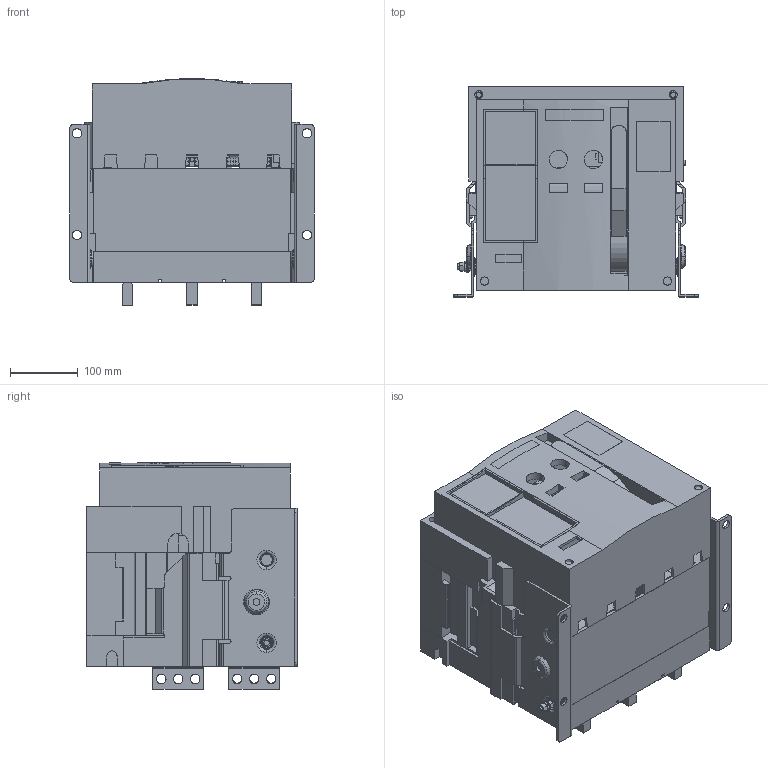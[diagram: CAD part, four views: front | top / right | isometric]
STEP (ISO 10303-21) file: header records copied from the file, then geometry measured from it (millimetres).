
FILE_DESCRIPTION(('CAx-IF Rec.Pracs.---Model Styling and Organization---1.2---2011-12-15','CAx-IF Rec.Pracs.---Geometric and Assembly Validation Properties---4.1---2014-06-16','CAx-IF Rec.Pracs.---PMI Polyline Presentation---2.0---2013-05-24'),'2;1');
FILE_NAME('YON AD-2000-S2-F vertical connection.stp','2021-07-13T11:23:25+03:00',(''),(''),'STEP Interface 4.4 by CT CoreTechnologie','3D_Evolution4.4 by CT CoreTechnologie','');
FILE_SCHEMA(('AUTOMOTIVE_DESIGN { 1 0 10303 214 1 1 1 1 }'));
Length unit declared in the file: millimetre
Products named in the file (1): YON AD-2000-S2-F vertical connection
Bounding box: 361 x 310 x 333.74 mm (x, y, z)
Surface area: 2040399.3 mm2 (no closed solid volume)
Topology: 0 solids, 37 shells, 2918 faces, 8398 edges, 5602 vertices
Faces by surface type: plane 1916, cylinder 810, bspline 192
Entity records: 187367 total; most frequent: CARTESIAN_POINT 20302, ORIENTED_EDGE 16748, DIRECTION 15910, PROPERTY_DEFINITION 11892, EDGE_CURVE 8379, VECTOR 6210, LINE 6210, REPRESENTATION 5958
